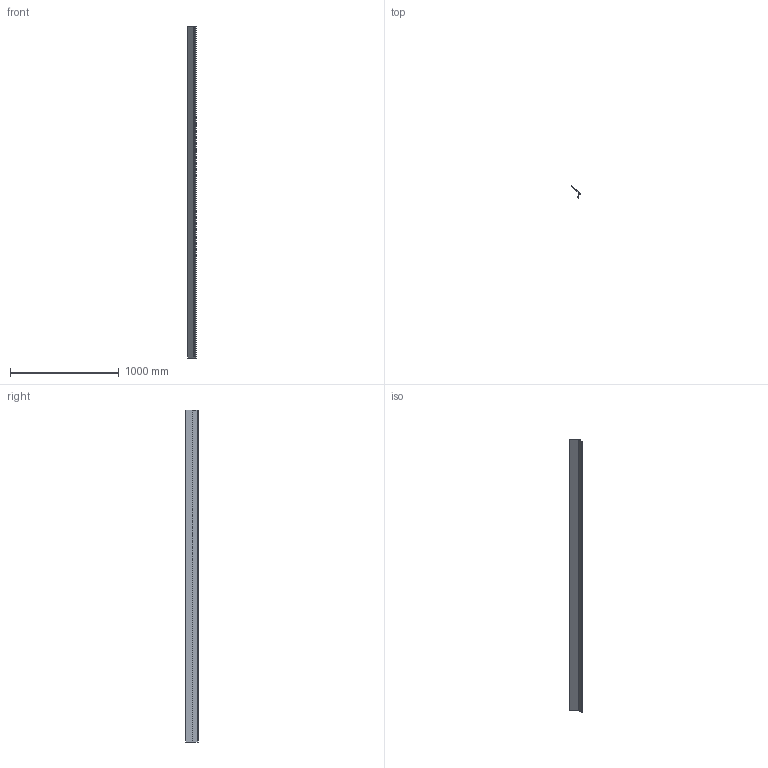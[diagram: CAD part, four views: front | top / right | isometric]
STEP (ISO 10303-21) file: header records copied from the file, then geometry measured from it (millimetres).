
FILE_DESCRIPTION (( 'STEP AP203' ), '1' );
FILE_NAME ('M59AB.1.75.STEP', '2018-06-15T18:28:43', ( 'Michael Moliner' ), ( '' ), 'SwSTEP 2.0', 'SolidWorks 2018', '' );
FILE_SCHEMA (( 'CONFIG_CONTROL_DESIGN' ));
Length unit declared in the file: inch
Products named in the file (2): M59AB.1.75
Bounding box: 76.18 x 114.52 x 3048 mm (x, y, z)
Volume: 317552.4 mm3; surface area: 1253511.3 mm2
Topology: 1 solids, 1 shells, 20 faces, 54 edges, 36 vertices
Faces by surface type: plane 14, cylinder 6
Entity records: 787 total; most frequent: CARTESIAN_POINT 112, DIRECTION 110, ORIENTED_EDGE 108, EDGE_CURVE 54, LINE 42, VECTOR 42, VERTEX_POINT 36, AXIS2_PLACEMENT_3D 34
